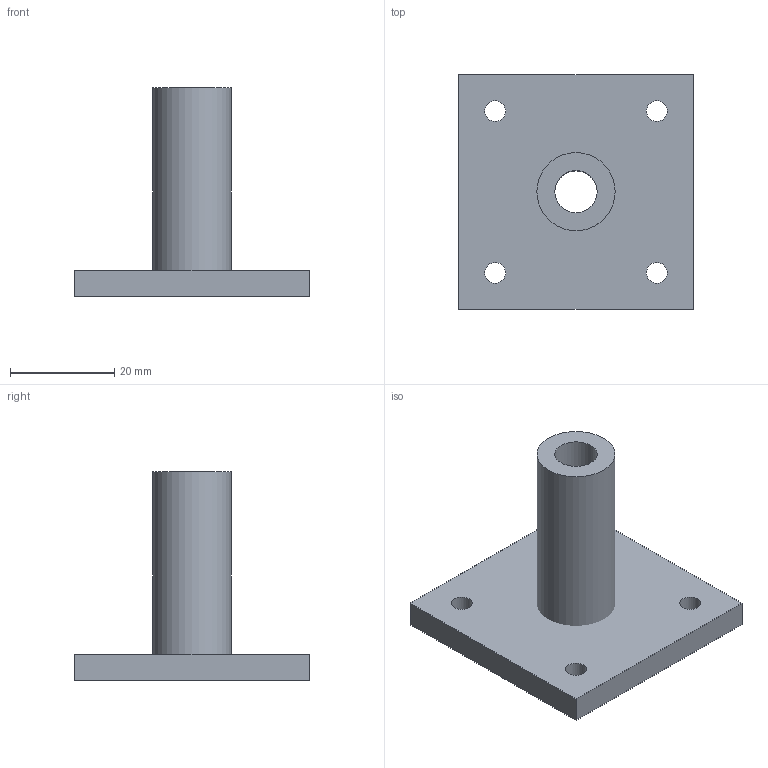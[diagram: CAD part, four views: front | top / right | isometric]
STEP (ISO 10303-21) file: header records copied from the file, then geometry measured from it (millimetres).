
FILE_DESCRIPTION(/* description */ (''),/* implementation_level */ '2;1');
FILE_NAME(/* name */ 'C:/Users/Jesus/Documents/Diseños_/Maquina_soalr/nema23 suport v4.step',/* time_stamp */ '2018-05-28T16:51:28-05:00',/* author */ ('sinister_4440'),/* organization */ (''),/* preprocessor_version */ 'ST-DEVELOPER v17',/* originating_system */ 'Autodesk Translation Framework v7.1.0.215',/* authorisation */ '');
FILE_SCHEMA (('AUTOMOTIVE_DESIGN { 1 0 10303 214 3 1 1 }'));
Length unit declared in the file: millimetre
Products named in the file (1): nema23 suport
Bounding box: 45 x 45 x 40 mm (x, y, z)
Volume: 14623.4 mm3; surface area: 8278.2 mm2
Topology: 2 solids, 2 shells, 15 faces, 33 edges, 22 vertices
Faces by surface type: plane 8, cylinder 7
Full cylindrical faces by diameter (mm): 4 x4, 8.1 x2, 15 x1
Entity records: 477 total; most frequent: DIRECTION 79, CARTESIAN_POINT 71, ORIENTED_EDGE 66, EDGE_CURVE 33, AXIS2_PLACEMENT_3D 30, EDGE_LOOP 27, VERTEX_POINT 22, LINE 19
